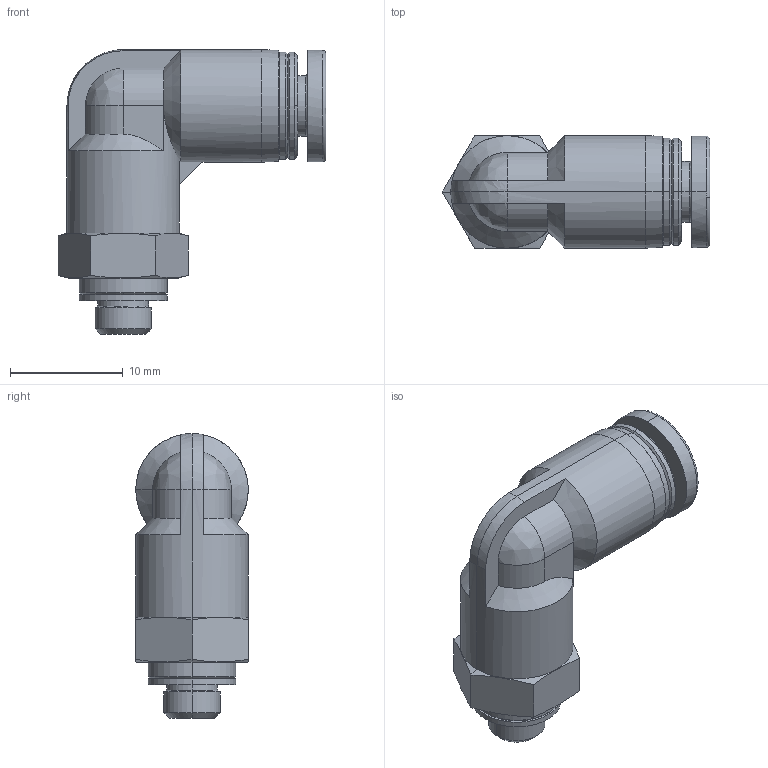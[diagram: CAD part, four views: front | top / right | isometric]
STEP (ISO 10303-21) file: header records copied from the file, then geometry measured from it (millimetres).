
FILE_DESCRIPTION (( 'STEP AP214' ), '1' );
FILE_NAME ('APL4-M5.STEP', '2019-12-05T05:41:39', ( '微软用户' ), ( '微软中国' ), 'SwSTEP 2.0', 'SolidWorks 2016', '' );
FILE_SCHEMA (( 'AUTOMOTIVE_DESIGN' ));
Length unit declared in the file: millimetre
Products named in the file (1): APL4-M5
Bounding box: 23.77 x 10 x 25.3 mm (x, y, z)
Volume: 2265.6 mm3; surface area: 1587.1 mm2
Topology: 1 solids, 1 shells, 92 faces, 215 edges, 131 vertices
Faces by surface type: cone 31, plane 27, cylinder 26, bspline 8
Entity records: 3019 total; most frequent: CARTESIAN_POINT 934, DIRECTION 437, ORIENTED_EDGE 426, EDGE_CURVE 213, AXIS2_PLACEMENT_3D 178, VERTEX_POINT 131, EDGE_LOOP 100, CIRCLE 93
